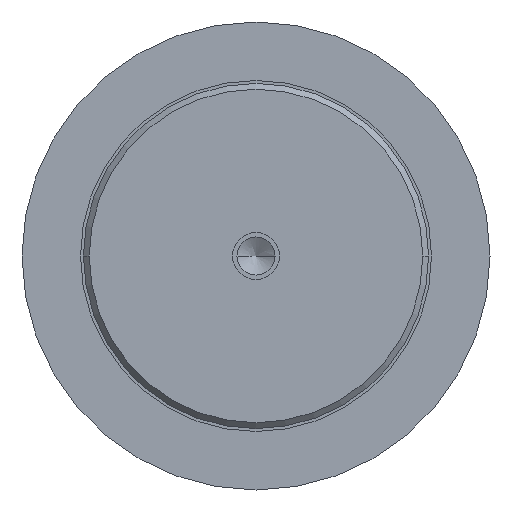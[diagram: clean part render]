
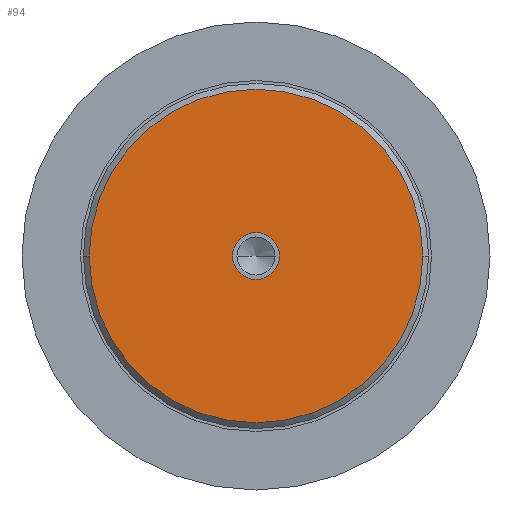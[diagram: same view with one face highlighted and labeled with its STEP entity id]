
A CAD part, left-side view. The second image highlights one B-rep face of the part: STEP entity #94.
In plain terms, the highlighted free-form (B-spline) face has degree [1, 1] with [2, 2] control points.
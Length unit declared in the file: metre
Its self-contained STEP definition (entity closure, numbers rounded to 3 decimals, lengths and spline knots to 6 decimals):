
#94 = ADVANCED_FACE( '', ( #155, #156 ), #157, .F. );
#155 = FACE_BOUND( '', #307, .T. );
#156 = FACE_OUTER_BOUND( '', #308, .T. );
#157 = B_SPLINE_SURFACE_WITH_KNOTS( '', 1, 1, ( ( #309, #310 ), ( #311, #312 ) ), .UNSPECIFIED., .F., .F., .F., ( 2, 2 ), ( 2, 2 ), ( 0., 1. ), ( 0., 1. ), .UNSPECIFIED. );
#307 = EDGE_LOOP( '', ( #503, #504 ) );
#308 = EDGE_LOOP( '', ( #505, #506 ) );
#309 = CARTESIAN_POINT( '', ( 0., -0.028842, -0.028842 ) );
#310 = CARTESIAN_POINT( '', ( 0., -0.028842, 0.028842 ) );
#311 = CARTESIAN_POINT( '', ( 0., 0.028842, -0.028842 ) );
#312 = CARTESIAN_POINT( '', ( 0., 0.028842, 0.028842 ) );
#503 = ORIENTED_EDGE( '', *, *, #686, .F. );
#504 = ORIENTED_EDGE( '', *, *, #684, .F. );
#505 = ORIENTED_EDGE( '', *, *, #689, .F. );
#506 = ORIENTED_EDGE( '', *, *, #690, .F. );
#684 = EDGE_CURVE( '', #778, #780, #781, .T. );
#686 = EDGE_CURVE( '', #780, #778, #783, .T. );
#689 = EDGE_CURVE( '', #787, #788, #789, .T. );
#690 = EDGE_CURVE( '', #788, #787, #790, .T. );
#778 = VERTEX_POINT( '', #910 );
#780 = VERTEX_POINT( '', #913 );
#781 = CIRCLE( '', #914, 0.004 );
#783 = CIRCLE( '', #917, 0.004 );
#787 = VERTEX_POINT( '', #923 );
#788 = VERTEX_POINT( '', #924 );
#789 = CIRCLE( '', #925, 0.0285 );
#790 = CIRCLE( '', #926, 0.0285 );
#910 = CARTESIAN_POINT( '', ( 0., -0.004, 0. ) );
#913 = CARTESIAN_POINT( '', ( 0., 0.004, 0. ) );
#914 = AXIS2_PLACEMENT_3D( '', #1076, #1077, #1078 );
#917 = AXIS2_PLACEMENT_3D( '', #1080, #1081, #1082 );
#923 = CARTESIAN_POINT( '', ( 0., 0.0285, 0. ) );
#924 = CARTESIAN_POINT( '', ( 0., -0.0285, 0. ) );
#925 = AXIS2_PLACEMENT_3D( '', #1085, #1086, #1087 );
#926 = AXIS2_PLACEMENT_3D( '', #1088, #1089, #1090 );
#1076 = CARTESIAN_POINT( '', ( 0., 0., 0. ) );
#1077 = DIRECTION( '', ( -1., 0., 0. ) );
#1078 = DIRECTION( '', ( 0., -1., 0. ) );
#1080 = CARTESIAN_POINT( '', ( 0., 0., 0. ) );
#1081 = DIRECTION( '', ( -1., 0., 0. ) );
#1082 = DIRECTION( '', ( 0., -1., 0. ) );
#1085 = CARTESIAN_POINT( '', ( 0., 0., 0. ) );
#1086 = DIRECTION( '', ( 1., 0., 0. ) );
#1087 = DIRECTION( '', ( 0., 1., 0. ) );
#1088 = CARTESIAN_POINT( '', ( 0., 0., 0. ) );
#1089 = DIRECTION( '', ( 1., 0., 0. ) );
#1090 = DIRECTION( '', ( 0., 1., 0. ) );
